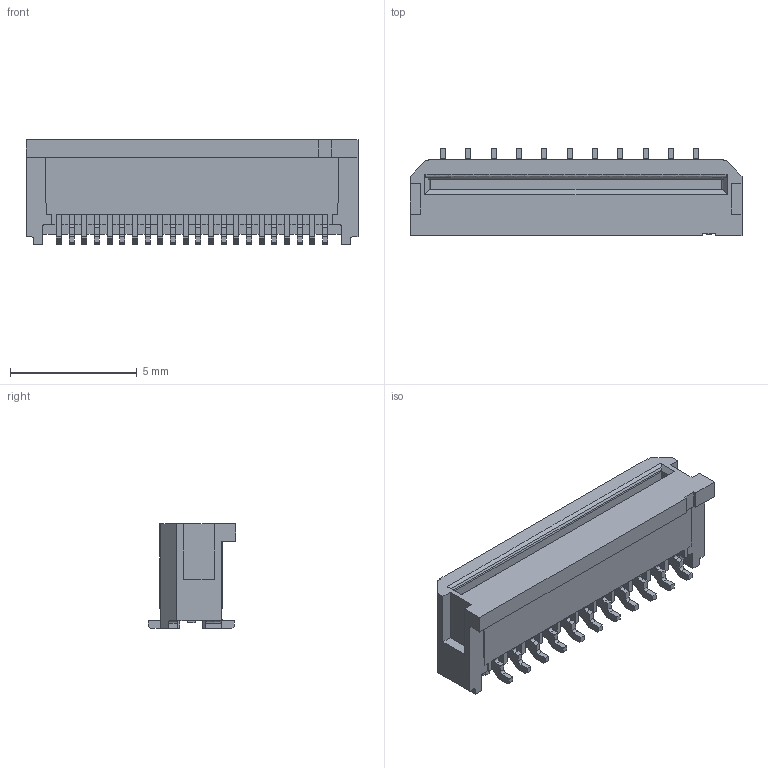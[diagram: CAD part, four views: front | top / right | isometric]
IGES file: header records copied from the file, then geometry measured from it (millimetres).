
Start section: START RECORD GO HERE.
Global section: file name: 00_6244_022_010_xxx_+.igs; native system: DASSAULT SYSTEMES CATIA V5 R19 - www.3ds.com; preprocessor: CATIA Version 5 Release 19 SP 9 ; author: user; organization: CATIA11; date: 20150602.150329; units: millimetre
Bounding box: 13.1 x 3.45 x 4.13 mm (x, y, z)
Surface area: 329.8 mm2 (no closed solid volume)
Topology: 0 solids, 0 shells, 613 faces, 4024 edges, 4022 vertices
Faces by surface type: plane 559, revolution 54
